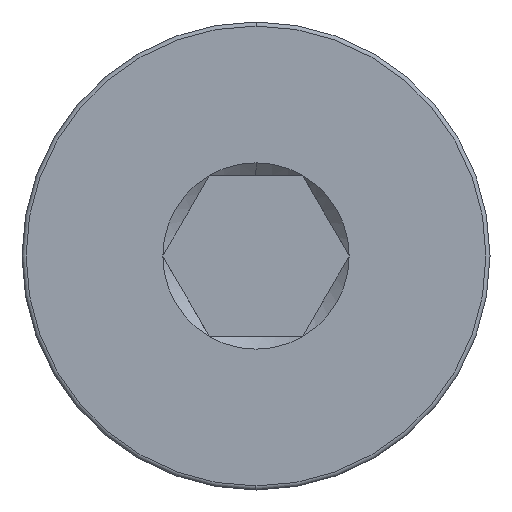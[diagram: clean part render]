
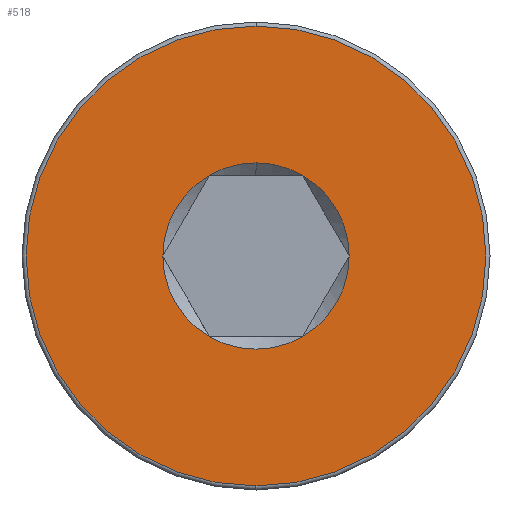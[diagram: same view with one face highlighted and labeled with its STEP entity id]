
A CAD part, left-side view. The second image highlights one B-rep face of the part: STEP entity #518.
In plain terms, the highlighted planar face has unit normal (-1, 0, 0).
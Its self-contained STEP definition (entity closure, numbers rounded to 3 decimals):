
#7 = CIRCLE ( 'NONE', #122, 1.155 ) ;
#19 = AXIS2_PLACEMENT_3D ( 'NONE', #70, #571, #382 ) ;
#51 = DIRECTION ( 'NONE',  ( 0., 0., 1. ) ) ;
#63 = PLANE ( 'NONE',  #716 ) ;
#70 = CARTESIAN_POINT ( 'NONE',  ( 0., 0., 0. ) ) ;
#79 = VERTEX_POINT ( 'NONE', #546 ) ;
#86 = EDGE_CURVE ( 'NONE', #92, #79, #176, .T. ) ;
#91 = DIRECTION ( 'NONE',  ( -1., 0., 0. ) ) ;
#92 = VERTEX_POINT ( 'NONE', #541 ) ;
#103 = CARTESIAN_POINT ( 'NONE',  ( 0., 0., 0. ) ) ;
#114 = ORIENTED_EDGE ( 'NONE', *, *, #86, .T. ) ;
#115 = AXIS2_PLACEMENT_3D ( 'NONE', #235, #496, #725 ) ;
#118 = CIRCLE ( 'NONE', #568, 1.155 ) ;
#121 = CARTESIAN_POINT ( 'NONE',  ( 0., 0., 2.85 ) ) ;
#122 = AXIS2_PLACEMENT_3D ( 'NONE', #398, #218, #148 ) ;
#132 = VERTEX_POINT ( 'NONE', #139 ) ;
#135 = ORIENTED_EDGE ( 'NONE', *, *, #170, .T. ) ;
#136 = AXIS2_PLACEMENT_3D ( 'NONE', #103, #273, #204 ) ;
#139 = CARTESIAN_POINT ( 'NONE',  ( 0., 0.577, -1. ) ) ;
#148 = DIRECTION ( 'NONE',  ( 0., 0., -1. ) ) ;
#170 = EDGE_CURVE ( 'NONE', #132, #506, #720, .T. ) ;
#172 = CIRCLE ( 'NONE', #714, 2.85 ) ;
#176 = CIRCLE ( 'NONE', #115, 1.155 ) ;
#177 = CARTESIAN_POINT ( 'NONE',  ( 0., 1.155, 0. ) ) ;
#189 = DIRECTION ( 'NONE',  ( 0., 0., -1. ) ) ;
#204 = DIRECTION ( 'NONE',  ( 0., 0., -1. ) ) ;
#205 = VERTEX_POINT ( 'NONE', #264 ) ;
#218 = DIRECTION ( 'NONE',  ( 1., 0., 0. ) ) ;
#226 = ORIENTED_EDGE ( 'NONE', *, *, #375, .T. ) ;
#233 = FACE_BOUND ( 'NONE', #747, .T. ) ;
#235 = CARTESIAN_POINT ( 'NONE',  ( 0., 0., 0. ) ) ;
#238 = CARTESIAN_POINT ( 'NONE',  ( 0., 0., 1.155 ) ) ;
#253 = CARTESIAN_POINT ( 'NONE',  ( 0., 0., 0. ) ) ;
#255 = CARTESIAN_POINT ( 'NONE',  ( 0., -0.577, 1. ) ) ;
#261 = EDGE_CURVE ( 'NONE', #205, #510, #118, .T. ) ;
#264 = CARTESIAN_POINT ( 'NONE',  ( 0., 0.577, 1. ) ) ;
#273 = DIRECTION ( 'NONE',  ( 1., 0., 0. ) ) ;
#280 = ORIENTED_EDGE ( 'NONE', *, *, #601, .T. ) ;
#309 = EDGE_CURVE ( 'NONE', #506, #205, #332, .T. ) ;
#332 = CIRCLE ( 'NONE', #343, 1.155 ) ;
#336 = CARTESIAN_POINT ( 'NONE',  ( 0., 0., 0. ) ) ;
#343 = AXIS2_PLACEMENT_3D ( 'NONE', #336, #651, #404 ) ;
#347 = EDGE_CURVE ( 'NONE', #765, #595, #172, .T. ) ;
#358 = ORIENTED_EDGE ( 'NONE', *, *, #347, .T. ) ;
#375 = EDGE_CURVE ( 'NONE', #79, #132, #384, .T. ) ;
#382 = DIRECTION ( 'NONE',  ( 0., 0., 1. ) ) ;
#384 = CIRCLE ( 'NONE', #136, 1.155 ) ;
#390 = AXIS2_PLACEMENT_3D ( 'NONE', #502, #573, #393 ) ;
#393 = DIRECTION ( 'NONE',  ( 0., 0., -1. ) ) ;
#398 = CARTESIAN_POINT ( 'NONE',  ( 0., 0., 0. ) ) ;
#401 = ORIENTED_EDGE ( 'NONE', *, *, #656, .T. ) ;
#404 = DIRECTION ( 'NONE',  ( 0., 0., -1. ) ) ;
#409 = DIRECTION ( 'NONE',  ( 0., 0., 1. ) ) ;
#437 = DIRECTION ( 'NONE',  ( 0., 0., -1. ) ) ;
#469 = ORIENTED_EDGE ( 'NONE', *, *, #261, .T. ) ;
#489 = FACE_OUTER_BOUND ( 'NONE', #643, .T. ) ;
#496 = DIRECTION ( 'NONE',  ( 1., 0., 0. ) ) ;
#502 = CARTESIAN_POINT ( 'NONE',  ( 0., 0., 0. ) ) ;
#506 = VERTEX_POINT ( 'NONE', #177 ) ;
#510 = VERTEX_POINT ( 'NONE', #238 ) ;
#518 = ADVANCED_FACE ( 'NONE', ( #489, #233 ), #63, .T. ) ;
#532 = CARTESIAN_POINT ( 'NONE',  ( 0., 0., -2.85 ) ) ;
#541 = CARTESIAN_POINT ( 'NONE',  ( 0., -1.155, 0. ) ) ;
#542 = ORIENTED_EDGE ( 'NONE', *, *, #309, .T. ) ;
#546 = CARTESIAN_POINT ( 'NONE',  ( 0., -0.577, -1. ) ) ;
#568 = AXIS2_PLACEMENT_3D ( 'NONE', #253, #729, #437 ) ;
#571 = DIRECTION ( 'NONE',  ( -1., 0., 0. ) ) ;
#573 = DIRECTION ( 'NONE',  ( 1., 0., 0. ) ) ;
#595 = VERTEX_POINT ( 'NONE', #121 ) ;
#601 = EDGE_CURVE ( 'NONE', #510, #699, #650, .T. ) ;
#610 = DIRECTION ( 'NONE',  ( -1., 0., 0. ) ) ;
#612 = CARTESIAN_POINT ( 'NONE',  ( 0., 0., 0. ) ) ;
#643 = EDGE_LOOP ( 'NONE', ( #401, #358 ) ) ;
#650 = CIRCLE ( 'NONE', #681, 1.155 ) ;
#651 = DIRECTION ( 'NONE',  ( 1., 0., 0. ) ) ;
#656 = EDGE_CURVE ( 'NONE', #595, #765, #657, .T. ) ;
#657 = CIRCLE ( 'NONE', #19, 2.85 ) ;
#681 = AXIS2_PLACEMENT_3D ( 'NONE', #612, #721, #189 ) ;
#693 = ORIENTED_EDGE ( 'NONE', *, *, #735, .T. ) ;
#699 = VERTEX_POINT ( 'NONE', #255 ) ;
#706 = CARTESIAN_POINT ( 'NONE',  ( 0., 0., 0. ) ) ;
#714 = AXIS2_PLACEMENT_3D ( 'NONE', #706, #91, #409 ) ;
#716 = AXIS2_PLACEMENT_3D ( 'NONE', #717, #610, #51 ) ;
#717 = CARTESIAN_POINT ( 'NONE',  ( 0., 0., 0. ) ) ;
#720 = CIRCLE ( 'NONE', #390, 1.155 ) ;
#721 = DIRECTION ( 'NONE',  ( 1., 0., 0. ) ) ;
#725 = DIRECTION ( 'NONE',  ( 0., 0., -1. ) ) ;
#729 = DIRECTION ( 'NONE',  ( 1., 0., 0. ) ) ;
#735 = EDGE_CURVE ( 'NONE', #699, #92, #7, .T. ) ;
#747 = EDGE_LOOP ( 'NONE', ( #542, #469, #280, #693, #114, #226, #135 ) ) ;
#765 = VERTEX_POINT ( 'NONE', #532 ) ;
